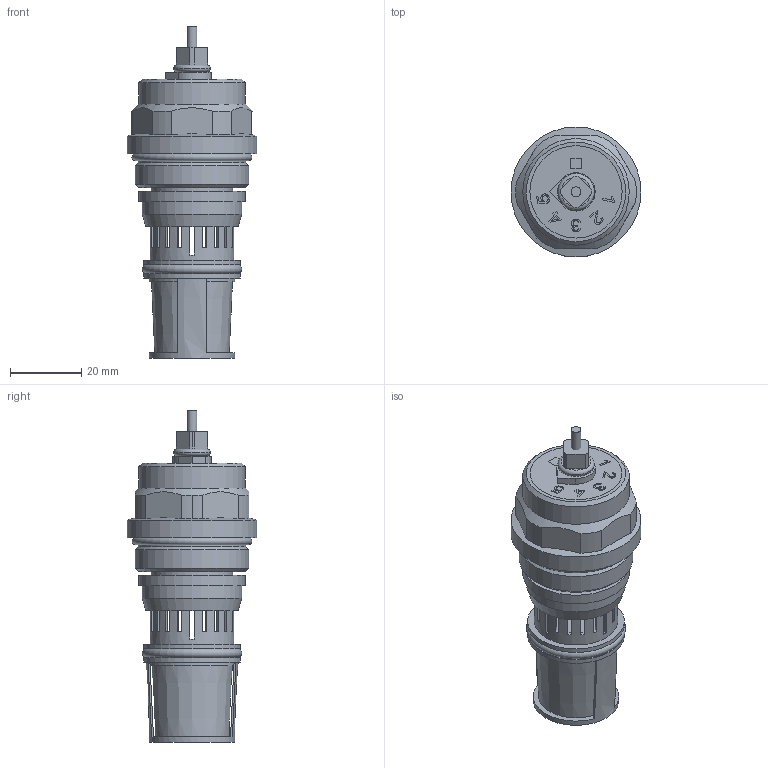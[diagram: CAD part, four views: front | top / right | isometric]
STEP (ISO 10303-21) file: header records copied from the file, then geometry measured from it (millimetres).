
FILE_DESCRIPTION(('TFLEX Exchange Step'),'2;1');
FILE_NAME('Cartridge VT.PICC.G03.stp', '2023-07-27T17:28:54+03:00',('denis'),('Unknown organisation'),'TFLEX Exchange 2023.0','T-FLEX CAD','Unknown authorisation');
FILE_SCHEMA( ('AUTOMOTIVE_DESIGN { 1 0 10303 214 1 1 1 1 }') );
Length unit declared in the file: millimetre
Products named in the file (6): 3D Узел_1; 3D Узел_2; 3D Узел_3; 3D Узел_4; 0; Cartridge VT.PICC.G03
Assembly tree (5 placements, depth 3):
  Cartridge VT.PICC.G03
    0
      3D Узел_1
      3D Узел_2
      3D Узел_3
      3D Узел_4
Bounding box: 36.6 x 36.6 x 93.5 mm (x, y, z)
Volume: 45081.9 mm3; surface area: 17812.9 mm2
Topology: 16 solids, 16 shells, 309 faces, 844 edges, 564 vertices
Faces by surface type: plane 197, bspline 68, cylinder 30, cone 10, torus 4
Full cylindrical faces by diameter (mm): 2.8 x1, 21.5 x1, 23 x1, 23.5 x2, 24 x1, 26 x2, 27.2 x2, 28 x1, 30 x2, 30.2 x1, 32 x1, 36.6 x1
Entity records: 11042 total; most frequent: CARTESIAN_POINT 3314, ORIENTED_EDGE 1688, DIRECTION 1344, EDGE_CURVE 844, VERTEX_POINT 560, VECTOR 520, LINE 520, AXIS2_PLACEMENT_3D 412
